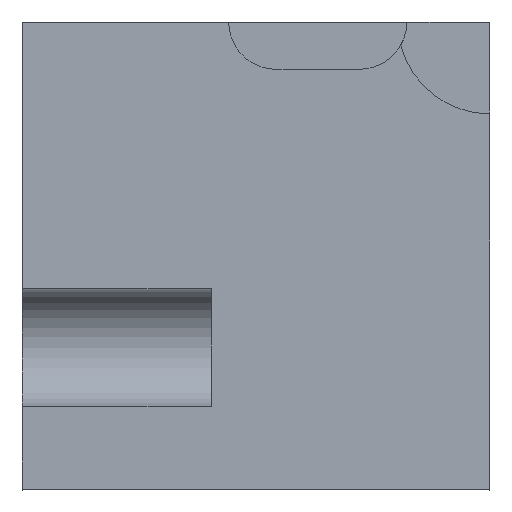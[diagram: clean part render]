
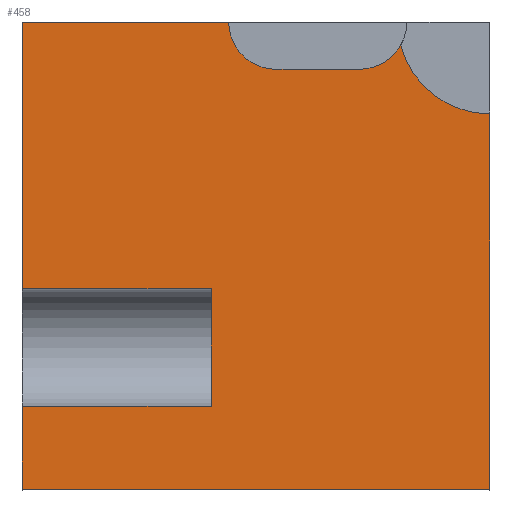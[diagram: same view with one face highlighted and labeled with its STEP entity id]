
A CAD part, top view. The second image highlights one B-rep face of the part: STEP entity #458.
In plain terms, the highlighted planar face has unit normal (0, 0, 1).
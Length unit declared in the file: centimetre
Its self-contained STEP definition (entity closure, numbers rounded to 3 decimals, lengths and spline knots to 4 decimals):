
#12 = VECTOR ( 'NONE', #83, 100. ) ;
#15 = DIRECTION ( 'NONE',  ( 0., -1., 0. ) ) ;
#18 = VERTEX_POINT ( 'NONE', #762 ) ;
#28 = DIRECTION ( 'NONE',  ( 0., 0., 1. ) ) ;
#44 = DIRECTION ( 'NONE',  ( 1., 0., 0. ) ) ;
#59 = VERTEX_POINT ( 'NONE', #78 ) ;
#67 = LINE ( 'NONE', #314, #128 ) ;
#74 = CARTESIAN_POINT ( 'NONE',  ( 542.7088, 898.8373, 1000. ) ) ;
#78 = CARTESIAN_POINT ( 'NONE',  ( 441.546, 1000., 1000. ) ) ;
#80 = LINE ( 'NONE', #74, #92 ) ;
#83 = DIRECTION ( 'NONE',  ( 0., 1., 0. ) ) ;
#89 = ORIENTED_EDGE ( 'NONE', *, *, #535, .F. ) ;
#92 = VECTOR ( 'NONE', #319, 100. ) ;
#93 = LINE ( 'NONE', #276, #519 ) ;
#111 = VECTOR ( 'NONE', #680, 100. ) ;
#116 = CARTESIAN_POINT ( 'NONE',  ( 0., 0., 1000. ) ) ;
#128 = VECTOR ( 'NONE', #231, 100. ) ;
#130 = EDGE_CURVE ( 'NONE', #846, #518, #946, .T. ) ;
#132 = CARTESIAN_POINT ( 'NONE',  ( 0., 0., 1000. ) ) ;
#162 = AXIS2_PLACEMENT_3D ( 'NONE', #477, #902, #486 ) ;
#168 = EDGE_CURVE ( 'NONE', #59, #238, #67, .T. ) ;
#196 = EDGE_LOOP ( 'NONE', ( #796, #446, #949, #686, #694, #863, #89, #784, #936, #884, #897, #473 ) ) ;
#227 = CARTESIAN_POINT ( 'NONE',  ( 1000., 0., 1000. ) ) ;
#231 = DIRECTION ( 'NONE',  ( -1., 0., 0. ) ) ;
#238 = VERTEX_POINT ( 'NONE', #585 ) ;
#241 = CARTESIAN_POINT ( 'NONE',  ( 809.7451, 950.5935, 1000. ) ) ;
#244 = CARTESIAN_POINT ( 'NONE',  ( 1000., 803.4347, 1000. ) ) ;
#259 = EDGE_CURVE ( 'NONE', #996, #846, #80, .T. ) ;
#263 = LINE ( 'NONE', #616, #111 ) ;
#276 = CARTESIAN_POINT ( 'NONE',  ( 0., 1000., 1000. ) ) ;
#313 = VERTEX_POINT ( 'NONE', #244 ) ;
#314 = CARTESIAN_POINT ( 'NONE',  ( 0., 1000., 1000. ) ) ;
#319 = DIRECTION ( 'NONE',  ( 1., 0., 0. ) ) ;
#321 = CARTESIAN_POINT ( 'NONE',  ( 404.4081, 429.4592, 1000. ) ) ;
#355 = AXIS2_PLACEMENT_3D ( 'NONE', #633, #563, #555 ) ;
#378 = AXIS2_PLACEMENT_3D ( 'NONE', #915, #28, #684 ) ;
#401 = VERTEX_POINT ( 'NONE', #1014 ) ;
#403 = EDGE_CURVE ( 'NONE', #401, #763, #263, .T. ) ;
#405 = CARTESIAN_POINT ( 'NONE',  ( 0., 1000., 1000. ) ) ;
#435 = EDGE_CURVE ( 'NONE', #708, #401, #801, .T. ) ;
#446 = ORIENTED_EDGE ( 'NONE', *, *, #130, .F. ) ;
#456 = VERTEX_POINT ( 'NONE', #227 ) ;
#457 = CARTESIAN_POINT ( 'NONE',  ( 542.7088, 898.8373, 1000. ) ) ;
#458 = ADVANCED_FACE ( 'NONE', ( #718 ), #573, .T. ) ;
#464 = CARTESIAN_POINT ( 'NONE',  ( 721.4677, 898.8373, 1000. ) ) ;
#466 = AXIS2_PLACEMENT_3D ( 'NONE', #132, #958, #646 ) ;
#468 = CARTESIAN_POINT ( 'NONE',  ( 0., 0., 1000. ) ) ;
#473 = ORIENTED_EDGE ( 'NONE', *, *, #598, .T. ) ;
#477 = CARTESIAN_POINT ( 'NONE',  ( 721.4677, 1000., 1000. ) ) ;
#481 = VECTOR ( 'NONE', #736, 100. ) ;
#486 = DIRECTION ( 'NONE',  ( 1., 0., 0. ) ) ;
#496 = CARTESIAN_POINT ( 'NONE',  ( 404.4081, 429.4592, 1000. ) ) ;
#506 = DIRECTION ( 'NONE',  ( 0., -1., 0. ) ) ;
#516 = CIRCLE ( 'NONE', #355, 101.1628 ) ;
#518 = VERTEX_POINT ( 'NONE', #241 ) ;
#519 = VECTOR ( 'NONE', #15, 100. ) ;
#535 = EDGE_CURVE ( 'NONE', #708, #18, #1051, .T. ) ;
#555 = DIRECTION ( 'NONE',  ( 1., 0., 0. ) ) ;
#563 = DIRECTION ( 'NONE',  ( 0., 0., 1. ) ) ;
#573 = PLANE ( 'NONE',  #466 ) ;
#585 = CARTESIAN_POINT ( 'NONE',  ( 0., 1000., 1000. ) ) ;
#589 = CIRCLE ( 'NONE', #378, 196.5653 ) ;
#598 = EDGE_CURVE ( 'NONE', #456, #313, #1057, .T. ) ;
#616 = CARTESIAN_POINT ( 'NONE',  ( 404.4081, 177.3344, 1000. ) ) ;
#633 = CARTESIAN_POINT ( 'NONE',  ( 542.7088, 1000., 1000. ) ) ;
#646 = DIRECTION ( 'NONE',  ( 1., 0., 0. ) ) ;
#660 = DIRECTION ( 'NONE',  ( -1., 0., 0. ) ) ;
#680 = DIRECTION ( 'NONE',  ( -1., 0., 0. ) ) ;
#681 = EDGE_CURVE ( 'NONE', #763, #1021, #980, .T. ) ;
#684 = DIRECTION ( 'NONE',  ( 1., 0., 0. ) ) ;
#686 = ORIENTED_EDGE ( 'NONE', *, *, #1002, .F. ) ;
#692 = CARTESIAN_POINT ( 'NONE',  ( 0., 177.3344, 1000. ) ) ;
#694 = ORIENTED_EDGE ( 'NONE', *, *, #168, .T. ) ;
#708 = VERTEX_POINT ( 'NONE', #496 ) ;
#718 = FACE_OUTER_BOUND ( 'NONE', #196, .T. ) ;
#736 = DIRECTION ( 'NONE',  ( 0., -1., 0. ) ) ;
#748 = CARTESIAN_POINT ( 'NONE',  ( 1000., 1000., 1000. ) ) ;
#749 = EDGE_CURVE ( 'NONE', #518, #313, #589, .T. ) ;
#762 = CARTESIAN_POINT ( 'NONE',  ( 0., 429.4592, 1000. ) ) ;
#763 = VERTEX_POINT ( 'NONE', #692 ) ;
#784 = ORIENTED_EDGE ( 'NONE', *, *, #435, .T. ) ;
#786 = EDGE_CURVE ( 'NONE', #238, #18, #93, .T. ) ;
#796 = ORIENTED_EDGE ( 'NONE', *, *, #749, .F. ) ;
#801 = LINE ( 'NONE', #880, #481 ) ;
#846 = VERTEX_POINT ( 'NONE', #464 ) ;
#862 = LINE ( 'NONE', #116, #944 ) ;
#863 = ORIENTED_EDGE ( 'NONE', *, *, #786, .T. ) ;
#880 = CARTESIAN_POINT ( 'NONE',  ( 404.4081, 0., 1000. ) ) ;
#883 = EDGE_CURVE ( 'NONE', #1021, #456, #862, .T. ) ;
#884 = ORIENTED_EDGE ( 'NONE', *, *, #681, .T. ) ;
#897 = ORIENTED_EDGE ( 'NONE', *, *, #883, .T. ) ;
#902 = DIRECTION ( 'NONE',  ( 0., 0., 1. ) ) ;
#915 = CARTESIAN_POINT ( 'NONE',  ( 1000., 1000., 1000. ) ) ;
#936 = ORIENTED_EDGE ( 'NONE', *, *, #403, .T. ) ;
#944 = VECTOR ( 'NONE', #44, 100. ) ;
#946 = CIRCLE ( 'NONE', #162, 101.1628 ) ;
#949 = ORIENTED_EDGE ( 'NONE', *, *, #259, .F. ) ;
#958 = DIRECTION ( 'NONE',  ( 0., 0., 1. ) ) ;
#980 = LINE ( 'NONE', #405, #1028 ) ;
#990 = VECTOR ( 'NONE', #660, 100. ) ;
#996 = VERTEX_POINT ( 'NONE', #457 ) ;
#1002 = EDGE_CURVE ( 'NONE', #59, #996, #516, .T. ) ;
#1014 = CARTESIAN_POINT ( 'NONE',  ( 404.4081, 177.3344, 1000. ) ) ;
#1021 = VERTEX_POINT ( 'NONE', #468 ) ;
#1028 = VECTOR ( 'NONE', #506, 100. ) ;
#1051 = LINE ( 'NONE', #321, #990 ) ;
#1057 = LINE ( 'NONE', #748, #12 ) ;
